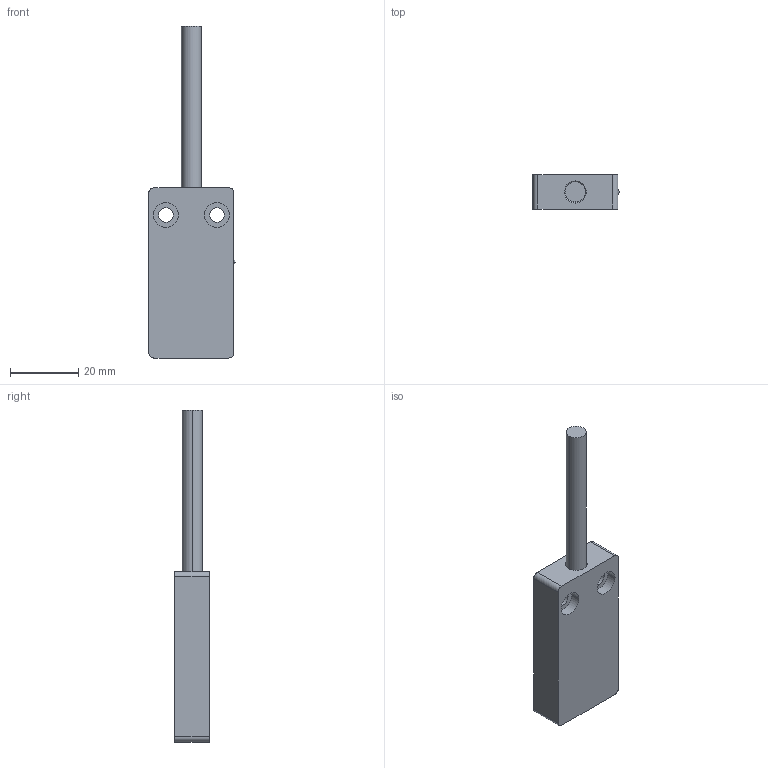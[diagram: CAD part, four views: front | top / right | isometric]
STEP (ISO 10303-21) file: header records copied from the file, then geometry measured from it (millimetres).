
FILE_DESCRIPTION((''),'2;1');
FILE_NAME('6490650400_SW0001','2025-01-08T11:28:02',('Rudolf.Poettker'),(''),'CREO PARAMETRIC BY PTC INC, 2022124','CREO PARAMETRIC BY PTC INC, 2022124','');
FILE_SCHEMA(('AUTOMOTIVE_DESIGN { 1 0 10303 214 1 1 1 1 }'));
Length unit declared in the file: millimetre
Products named in the file (1): 6490650400_SW0001
Bounding box: 25.35 x 10.1 x 97.5 mm (x, y, z)
Volume: 13216.3 mm3; surface area: 5235.8 mm2
Topology: 1 solids, 1 shells, 54 faces, 124 edges, 81 vertices
Faces by surface type: cylinder 26, plane 24, cone 2, sphere 2
Entity records: 2924 total; most frequent: DIRECTION 314, CARTESIAN_POINT 276, ORIENTED_EDGE 244, PRESENTATION_STYLE_ASSIGNMENT 181, COLOUR_RGB 145, STYLED_ITEM 127, CURVE_STYLE 126, AXIS2_PLACEMENT_3D 122
